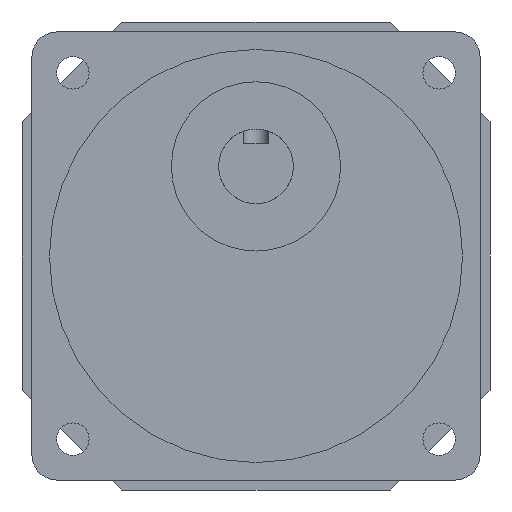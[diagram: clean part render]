
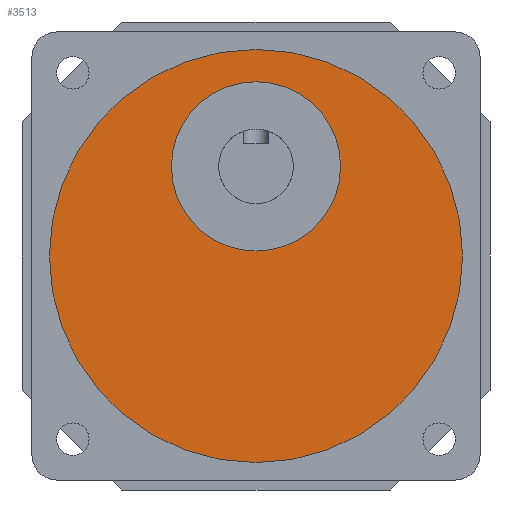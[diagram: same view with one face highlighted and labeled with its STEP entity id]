
A CAD part, front view. The second image highlights one B-rep face of the part: STEP entity #3513.
In plain terms, the highlighted planar face has unit normal (0, -1, 0).
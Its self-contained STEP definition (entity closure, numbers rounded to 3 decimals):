
#321 = CARTESIAN_POINT ( 'NONE',  ( 45., -63.5, 86.5 ) ) ;
#490 = DIRECTION ( 'NONE',  ( 0., -1., 0. ) ) ;
#645 = DIRECTION ( 'NONE',  ( 0., -1., 0. ) ) ;
#792 = CARTESIAN_POINT ( 'NONE',  ( 45., -63.5, 46. ) ) ;
#813 = EDGE_CURVE ( 'NONE', #1507, #1369, #2875, .T. ) ;
#815 = CARTESIAN_POINT ( 'NONE',  ( 45., -63.5, 45. ) ) ;
#894 = VERTEX_POINT ( 'NONE', #321 ) ;
#994 = DIRECTION ( 'NONE',  ( 0., -1., 0. ) ) ;
#1086 = FACE_BOUND ( 'NONE', #1412, .T. ) ;
#1158 = DIRECTION ( 'NONE',  ( 0., 0., -1. ) ) ;
#1236 = ORIENTED_EDGE ( 'NONE', *, *, #813, .F. ) ;
#1259 = CIRCLE ( 'NONE', #4757, 17. ) ;
#1315 = CARTESIAN_POINT ( 'NONE',  ( 45., -63.5, 3.5 ) ) ;
#1363 = FACE_OUTER_BOUND ( 'NONE', #3712, .T. ) ;
#1369 = VERTEX_POINT ( 'NONE', #1459 ) ;
#1381 = DIRECTION ( 'NONE',  ( 0., 0., -1. ) ) ;
#1412 = EDGE_LOOP ( 'NONE', ( #1450, #1236 ) ) ;
#1450 = ORIENTED_EDGE ( 'NONE', *, *, #3281, .F. ) ;
#1459 = CARTESIAN_POINT ( 'NONE',  ( 45., -63.5, 80. ) ) ;
#1507 = VERTEX_POINT ( 'NONE', #792 ) ;
#1599 = DIRECTION ( 'NONE',  ( 0., 0., -1. ) ) ;
#1650 = CIRCLE ( 'NONE', #3538, 41.5 ) ;
#1752 = ORIENTED_EDGE ( 'NONE', *, *, #3137, .T. ) ;
#1941 = PLANE ( 'NONE',  #4043 ) ;
#2074 = AXIS2_PLACEMENT_3D ( 'NONE', #3839, #2746, #2382 ) ;
#2382 = DIRECTION ( 'NONE',  ( 0., 0., -1. ) ) ;
#2676 = CARTESIAN_POINT ( 'NONE',  ( 45., -63.5, 45. ) ) ;
#2746 = DIRECTION ( 'NONE',  ( 0., -1., 0. ) ) ;
#2788 = VERTEX_POINT ( 'NONE', #1315 ) ;
#2875 = CIRCLE ( 'NONE', #3924, 17. ) ;
#2877 = CARTESIAN_POINT ( 'NONE',  ( 45., -63.5, 63. ) ) ;
#2881 = CARTESIAN_POINT ( 'NONE',  ( 45., -63.5, 63. ) ) ;
#3090 = EDGE_CURVE ( 'NONE', #894, #2788, #4345, .T. ) ;
#3137 = EDGE_CURVE ( 'NONE', #2788, #894, #1650, .T. ) ;
#3281 = EDGE_CURVE ( 'NONE', #1369, #1507, #1259, .T. ) ;
#3513 = ADVANCED_FACE ( 'NONE', ( #1086, #1363 ), #1941, .T. ) ;
#3538 = AXIS2_PLACEMENT_3D ( 'NONE', #2676, #490, #1599 ) ;
#3712 = EDGE_LOOP ( 'NONE', ( #1752, #4053 ) ) ;
#3839 = CARTESIAN_POINT ( 'NONE',  ( 45., -63.5, 45. ) ) ;
#3924 = AXIS2_PLACEMENT_3D ( 'NONE', #2881, #994, #4698 ) ;
#4043 = AXIS2_PLACEMENT_3D ( 'NONE', #815, #4493, #1158 ) ;
#4053 = ORIENTED_EDGE ( 'NONE', *, *, #3090, .T. ) ;
#4345 = CIRCLE ( 'NONE', #2074, 41.5 ) ;
#4493 = DIRECTION ( 'NONE',  ( 0., -1., 0. ) ) ;
#4698 = DIRECTION ( 'NONE',  ( 0., 0., -1. ) ) ;
#4757 = AXIS2_PLACEMENT_3D ( 'NONE', #2877, #645, #1381 ) ;
